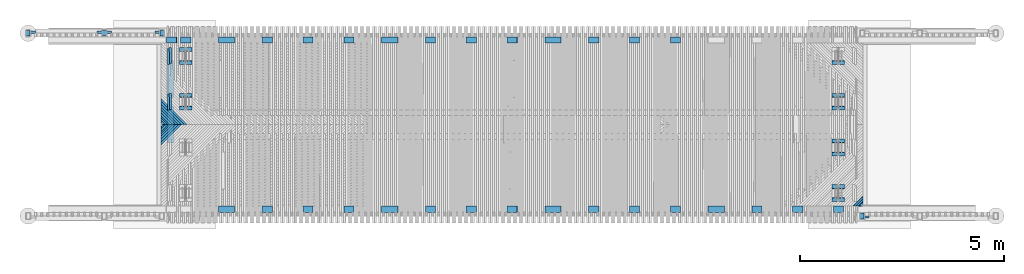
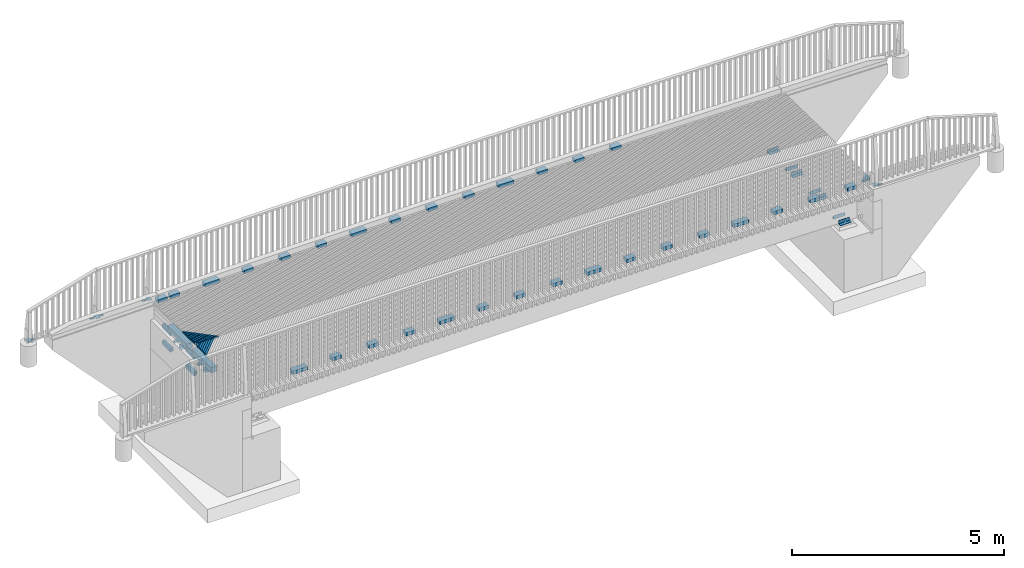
# One storey, part 44 of 47: 79 beams.
"""IFC2X3 building model written with IfcOpenShell, lengths in millimetres."""

from ifc_helpers import new_model, si_unit, frame, origin_with_axes, place, context, subcontext, project, spatial, faceted_brep, material, type_object, element, save


model = new_model("IFC2X3")

# Units and contexts
model_context = context("Model", 3, precision=1e-05, world=origin_with_axes())
body_context = subcontext(model_context, "Body", "Model", "MODEL_VIEW")
ifc_project = project(units=[si_unit("LENGTHUNIT", "METRE", prefix="MILLI"), si_unit("AREAUNIT", "SQUARE_METRE"), si_unit("VOLUMEUNIT", "CUBIC_METRE"), si_unit("MASSUNIT", "GRAM", prefix="KILO"), si_unit("TIMEUNIT", "SECOND"), si_unit("PLANEANGLEUNIT", "RADIAN"), si_unit("SOLIDANGLEUNIT", "STERADIAN"), si_unit("THERMODYNAMICTEMPERATUREUNIT", "DEGREE_CELSIUS"), si_unit("LUMINOUSINTENSITYUNIT", "LUMEN")], contexts=[model_context])

# Site, building, storey
site_placement = place(None, origin_with_axes())
site = spatial("IfcSite", under=ifc_project, at=site_placement, Name="Undefined", CompositionType="ELEMENT")
building_placement = place(site_placement, origin_with_axes())
building = spatial("IfcBuilding", under=site, at=building_placement, Name="Undefined", CompositionType="ELEMENT")
storey_placement = place(building_placement, origin_with_axes())
storey = spatial("IfcBuildingStorey", under=building, at=storey_placement, Name="Undefined", CompositionType="ELEMENT", Elevation=0.0)

# Beams
ifc_material_1 = material(Name="STEEL/AISI316")
beam_type_1 = type_object("IfcBeamType", Name="PL60*10", PredefinedType="NOTDEFINED")
for number, where, z_axis, x_axis in (
    (1, (16642.0268804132, 60099.9999997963, 3120.19233695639), (-0.000116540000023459, 0.999999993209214, 0.0), (0.999999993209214, 0.000116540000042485, 0.0)),
    (2, (-3802.03943117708, 64630.0000002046, 3074.05721748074), (-0.000116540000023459, -0.999999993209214, 0.0), (0.999999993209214, -0.000116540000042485, 0.0)),
    (3, (-642.026880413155, 64630.0000002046, 3120.19233695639), (0.000116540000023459, -0.999999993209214, 0.0), (-0.999999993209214, -0.000116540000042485, 0.0)),
    (4, (-2057.02733990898, 64630.0000002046, 3100.31976226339), (0.000116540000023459, -0.999999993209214, 0.0), (-0.999999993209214, -0.000116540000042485, 0.0)),
    (5, (-1937.03433205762, 64630.0000002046, 3100.31976226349), (-0.000116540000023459, -0.999999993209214, 0.0), (0.999999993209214, -0.000116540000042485, 0.0)),
):
    element("IfcBeam", number, at=place(storey_placement, frame(where, z_axis=z_axis, x_axis=x_axis)), inside=storey, type_object=beam_type_1, material=ifc_material_1, Name="KAIDEPYLVÄS", ObjectType="PL60*10", context=body_context, shape_type="Brep", body=[
        faceted_brep([(3.63797880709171e-12, 5.0, -30.0), (0.0, 5.0, 30.0), (115.000000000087, 5.0, 29.9999999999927), (115.000000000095, 5.0, -30.0), (0.0, -5.0, 30.0), (115.000000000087, -5.0, 29.9999999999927), (3.63797880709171e-12, -5.0, -30.0), (115.000000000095, -5.0, -30.0)], [[[0, 1, 2, 3]], [[1, 4, 5, 2]], [[4, 6, 7, 5]], [[6, 0, 3, 7]], [[5, 7, 3, 2]], [[6, 4, 1, 0]]]),
    ])
beam_type_2 = type_object("IfcBeamType", Name="PL100*10", PredefinedType="NOTDEFINED")
for number, where, z_axis, x_axis in (
    (6, (16582.0303763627, 60055.02, 3137.45233696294), (1.0, 0.0, 0.0), (0.0, 1.0, 0.0)),
    (7, (-3862.03593497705, 64674.9800000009, 3091.31721748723), (-1.0, 0.0, 0.0), (0.0, -1.0, 0.0)),
    (8, (-582.030376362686, 64674.9800000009, 3137.45233696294), (-1.0, 0.0, 0.0), (0.0, -1.0, 0.0)),
    (9, (-1997.03083585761, 64674.9800000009, 3117.57976226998), (-1.0, 0.0, 0.0), (0.0, -1.0, 0.0)),
):
    element("IfcBeam", number, at=place(storey_placement, frame(where, z_axis=z_axis, x_axis=x_axis)), inside=storey, type_object=beam_type_2, material=ifc_material_1, Name="KAIDEPYLVÄS", ObjectType="PL100*10", context=body_context, shape_type="Brep", body=[
        faceted_brep([(0.0, 5.0, -50.0), (0.0, 5.0, 50.0), (140.0, 5.0, 50.0), (140.0, 5.0, -50.0), (0.0, -5.0, 50.0), (140.0, -5.0, 50.0), (0.0, -5.0, -50.0), (140.0, -5.0, -50.0)], [[[0, 1, 2, 3]], [[1, 4, 5, 2]], [[4, 6, 7, 5]], [[6, 0, 3, 7]], [[5, 7, 3, 2]], [[6, 4, 1, 0]]]),
    ])
ifc_material_2 = material(Name="TIMBER/Timber_Undefined")
beam_type_3 = type_object("IfcBeamType", Name="150*100", PredefinedType="NOTDEFINED")
for number, where, z_axis, x_axis in (
    (10, (12805.9377995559, 60289.9999999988, 3199.40960826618), (0.0, -1.0, 0.0), (0.999944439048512, 0.0, -0.0105412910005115)),
    (11, (8804.3535367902, 60289.9999999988, 3218.05327472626), (0.0, -1.0, 0.0), (0.999992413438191, 0.0, -0.00389526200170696)),
    (12, (4802.73374412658, 60289.9999999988, 3210.1013407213), (0.0, -1.0, 0.0), (0.9999962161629, 0.0, 0.002750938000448)),
    (13, (801.255181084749, 60289.9999999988, 3175.55415743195), (0.0, -1.0, 0.0), (0.999955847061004, 0.0, 0.0093970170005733)),
    (14, (4802.73374412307, 64439.9999999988, 3210.10134072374), (0.0, -1.0, 0.0), (0.9999962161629, 0.0, 0.002750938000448)),
    (15, (801.255181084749, 64439.9999999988, 3175.55415743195), (0.0, -1.0, 0.0), (0.999955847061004, 0.0, 0.0093970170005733)),
    (16, (8804.3535367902, 64439.9999999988, 3218.05327472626), (0.0, -1.0, 0.0), (0.999992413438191, 0.0, -0.00389526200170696)),
):
    element("IfcBeam", number, at=place(storey_placement, frame(where, z_axis=z_axis, x_axis=x_axis)), inside=storey, type_object=beam_type_3, material=ifc_material_2, Name="TÖRMÄYSJOHDE", ObjectType="150*100", context=body_context, shape_type="Brep", body=[
        faceted_brep([(-3.63797880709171e-12, 50.0, -75.0), (-3.63797880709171e-12, 50.0, 75.0), (399.996161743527, 49.9999999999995, 75.0), (399.996161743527, 49.9999999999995, -75.0), (0.0, -49.9999999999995, 75.0), (399.996161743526, -50.0000000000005, 75.0), (0.0, -49.9999999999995, -75.0), (399.996161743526, -50.0000000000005, -75.0)], [[[0, 1, 2, 3]], [[1, 4, 5, 2]], [[4, 6, 7, 5]], [[6, 0, 3, 7]], [[5, 7, 3, 2]], [[6, 4, 1, 0]]]),
    ])
for number, where, z_axis, x_axis in (
    (17, (2876.78354707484, 64439.9999999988, 3196.15064859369), (0.0, -1.0, 0.0), (0.999952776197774, 0.0, 0.00971830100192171)),
    (18, (2876.78354707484, 60289.9999999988, 3196.15064859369), (0.0, -1.0, 0.0), (0.999952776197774, 0.0, 0.00971830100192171)),
    (19, (15881.7966501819, 60289.9999999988, 3166.35655532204), (0.0, -1.0, 0.0), (0.999929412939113, 0.0, -0.0118814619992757)),
    (20, (14881.4642555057, 60289.9999999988, 3178.62153167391), (0.0, -1.0, 0.0), (0.999947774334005, 0.0, -0.0102200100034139)),
    (21, (13881.1128627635, 60289.9999999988, 3189.22438612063), (0.0, -1.0, 0.0), (0.99996337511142, 0.0, -0.00855853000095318)),
    (22, (11880.3641300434, 64439.9999999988, 3205.44361680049), (0.0, -1.0, 0.0), (0.999986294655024, 0.0, -0.00523550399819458)),
    (23, (11880.3641300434, 60289.9999999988, 3205.44361680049), (0.0, -1.0, 0.0), (0.999986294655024, 0.0, -0.00523550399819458)),
    (24, (10879.9723136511, 64439.9999999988, 3211.05994825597), (0.0, -1.0, 0.0), (0.999993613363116, 0.0, -0.00357396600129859)),
    (25, (10879.9723136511, 60289.9999999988, 3211.05994825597), (0.0, -1.0, 0.0), (0.999993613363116, 0.0, -0.00357396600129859)),
    (26, (9879.57254634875, 64439.9999999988, 3215.01406825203), (0.0, -1.0, 0.0), (0.999998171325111, 0.0, -0.00191241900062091)),
    (27, (9879.57254634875, 60289.9999999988, 3215.01406825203), (0.0, -1.0, 0.0), (0.999998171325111, 0.0, -0.00191241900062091)),
    (28, (7878.76020647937, 64439.9999999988, 3217.93563478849), (0.0, -1.0, 0.0), (0.99999900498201, 0.0, 0.00141068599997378)),
    (29, (7878.76020647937, 60289.9999999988, 3217.93563478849), (0.0, -1.0, 0.0), (0.99999900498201, 0.0, 0.00141068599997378)),
    (30, (6878.35315767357, 64439.9999999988, 3216.90307326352), (0.0, -1.0, 0.0), (0.99999528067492, 0.0, 0.00307223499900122)),
    (31, (6878.35315767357, 60289.9999999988, 3216.90307326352), (0.0, -1.0, 0.0), (0.99999528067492, 0.0, 0.00307223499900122)),
    (32, (5877.94920546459, 64439.9999999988, 3214.20828414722), (0.0, -1.0, 0.0), (0.99998879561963, 0.0, 0.00473377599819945)),
    (33, (5877.94920546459, 60289.9999999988, 3214.20828414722), (0.0, -1.0, 0.0), (0.99998879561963, 0.0, 0.00473377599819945)),
    (34, (3877.16163831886, 64439.9999999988, 3203.83205748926), (0.0, -1.0, 0.0), (0.999967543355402, 0.0, 0.00805681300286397)),
    (35, (3877.16163831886, 60289.9999999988, 3203.83205748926), (0.0, -1.0, 0.0), (0.999967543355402, 0.0, 0.00805681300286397)),
    (36, (1876.41959979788, 64439.9999999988, 3186.80706939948), (0.0, -1.0, 0.0), (0.999935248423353, 0.0, 0.0113797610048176)),
    (37, (1876.41959979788, 60289.9999999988, 3186.80706939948), (0.0, -1.0, 0.0), (0.999935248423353, 0.0, 0.0113797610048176)),
    (38, (-124.254815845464, 64439.9999999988, 3163.13350788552), (0.0, -1.0, 0.0), (0.999891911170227, 0.0, 0.0147025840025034)),
    (39, (-469.724815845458, 64439.9999999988, 3158.3535078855), (0.0, -1.0, 0.0), (0.999891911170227, 0.0, 0.0147025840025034)),
):
    element("IfcBeam", number, at=place(storey_placement, frame(where, z_axis=z_axis, x_axis=x_axis)), inside=storey, type_object=beam_type_3, material=ifc_material_2, Name="TÖRMÄYSJOHDE", ObjectType="150*100", context=body_context, shape_type="Brep", body=[
        faceted_brep([(-3.63797880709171e-12, 50.0, -75.0), (-3.63797880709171e-12, 50.0, 75.0), (250.000589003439, 50.0000000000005, 75.0), (250.000589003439, 50.0000000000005, -75.0), (0.0, -49.9999999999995, 75.0), (250.000589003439, -50.0, 75.0), (0.0, -49.9999999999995, -75.0), (250.000589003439, -50.0, -75.0)], [[[0, 1, 2, 3]], [[1, 4, 5, 2]], [[4, 6, 7, 5]], [[6, 0, 3, 7]], [[5, 7, 3, 2]], [[6, 4, 1, 0]]]),
    ])
beam_type_4 = type_object("IfcBeamType", Name="150*150", PredefinedType="NOTDEFINED")
for number, where, z_axis, x_axis, name in (
    (40, (-375.006122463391, 63035.0011300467, 2658.99214114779), (4.45050000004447e-05, 0.0, 0.999999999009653), (0.0, 1.0, 0.0), "BEAM"),
    (41, (-375.006122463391, 61915.0011300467, 2658.99214114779), (4.45050000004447e-05, 0.0, 0.999999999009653), (0.0, 1.0, 0.0), "BEAM"),
):
    element("IfcBeam", number, at=place(storey_placement, frame(where, z_axis=z_axis, x_axis=x_axis)), inside=storey, type_object=beam_type_4, material=ifc_material_2, Name=name, ObjectType="150*150", context=body_context, shape_type="Brep", body=[
        faceted_brep([(3.63797880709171e-12, 75.0000000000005, -75.0), (3.63797880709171e-12, 75.0000000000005, 75.0), (900.0, 75.0, 75.0000000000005), (900.0, 74.9999999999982, -74.9999999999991), (0.0, -75.0000000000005, 75.0), (900.0, -75.0000000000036, 75.0000000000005), (0.0, -75.0000000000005, -75.0), (900.0, -75.0, -74.9999999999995)], [[[0, 1, 2, 3]], [[1, 4, 5, 2]], [[4, 6, 7, 5]], [[6, 0, 3, 7]], [[5, 7, 3, 2]], [[6, 4, 1, 0]]]),
    ])
beam_type_5 = type_object("IfcBeamType", Name="50*50", PredefinedType="NOTDEFINED")
beam_1_placement = place(storey_placement, frame((18531.7317784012, 62364.5001003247, 3144.0077743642), z_axis=(0.706781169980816, -0.706981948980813, -0.0252369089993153), x_axis=(-0.707258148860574, -0.706948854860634, -0.00303767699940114)))
element("IfcBeam", 42, at=beam_1_placement, inside=storey, type_object=beam_type_5, material=ifc_material_2, Name="BEAM", ObjectType="50*50", context=body_context, shape_type="Brep", body=[
    faceted_brep([(2802.92643296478, -25.0000000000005, 25.0000000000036), (2852.92877373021, -25.0000000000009, -24.9999999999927), (2854.34301907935, 24.9999999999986, -24.9999999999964), (2804.3406783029, 24.9999999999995, 25.0000000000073), (2705.75872714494, 24.9999999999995, -24.9999999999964), (2755.72500686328, 24.9999999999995, 25.0000000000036), (2756.83447595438, -25.0000000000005, 25.0), (2706.86819623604, -25.0000000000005, -25.0000000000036)], [[[0, 1, 2, 3]], [[3, 2, 4, 5]], [[0, 3, 5, 6]], [[1, 0, 6, 7]], [[2, 1, 7, 4]], [[6, 5, 4, 7]]]),
])
beam_2_placement = place(storey_placement, frame((-537.985484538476, 62364.5001003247, 3175.22917320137), z_axis=(0.707225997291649, -0.706981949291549, -0.00281285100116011), x_axis=(-0.706806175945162, -0.706948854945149, -0.0254626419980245)))
element("IfcBeam", 43, at=beam_2_placement, inside=storey, type_object=beam_type_5, material=ifc_material_2, Name="BEAM", ObjectType="50*50", context=body_context, shape_type="Brep", body=[
    faceted_brep([(23.4806436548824, -25.0000000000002, -25.0), (-26.4222658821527, -25.0000000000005, 25.0000000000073), (-25.0086637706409, 24.9999999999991, 25.0), (24.8942457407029, 24.9999999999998, -24.9999999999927), (62.1578303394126, -25.0000000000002, -24.9999999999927), (112.187528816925, -24.9999999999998, 25.0000000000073), (113.320306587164, 25.0, 25.0000000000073), (63.2906081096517, 24.9999999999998, -24.9999999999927)], [[[0, 1, 2, 3]], [[1, 0, 4, 5]], [[2, 1, 5, 6]], [[3, 2, 6, 7]], [[0, 3, 7, 4]], [[6, 5, 4, 7]]]),
])
beam_3_placement = place(storey_placement, frame((-537.985484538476, 62365.4998996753, 3175.22917320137), z_axis=(0.707225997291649, 0.706981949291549, -0.00281285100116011), x_axis=(-0.706806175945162, 0.706948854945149, -0.0254626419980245)))
element("IfcBeam", 44, at=beam_3_placement, inside=storey, type_object=beam_type_5, material=ifc_material_2, Name="BEAM", ObjectType="50*50", context=body_context, shape_type="Brep", body=[
    faceted_brep([(25.0011701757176, -25.0, -24.9999999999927), (-25.0011704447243, -25.0, 24.9999999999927), (-26.4154158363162, 25.0, 25.0), (23.5869248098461, 25.0, -25.0), (112.187528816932, 25.0000000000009, 25.0000000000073), (62.1578303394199, 25.0, -24.9999999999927), (63.2906081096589, -25.0, -24.9999999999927), (113.320306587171, -25.0, 25.0000000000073)], [[[0, 1, 2, 3]], [[3, 2, 4, 5]], [[0, 3, 5, 6]], [[1, 0, 6, 7]], [[2, 1, 7, 4]], [[6, 5, 4, 7]]]),
])
beam_4_placement = place(storey_placement, frame((-467.268344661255, 62364.5001003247, 3176.23083387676), z_axis=(0.70722566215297, -0.706981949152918, -0.00289592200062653), x_axis=(-0.706809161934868, -0.706948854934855, -0.0253796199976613)))
element("IfcBeam", 45, at=beam_4_placement, inside=storey, type_object=beam_type_5, material=ifc_material_2, Name="BEAM", ObjectType="50*50", context=body_context, shape_type="Brep", body=[
    faceted_brep([(23.4806436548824, -25.0000000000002, -25.0), (-26.4222658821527, -25.0000000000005, 25.0000000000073), (-25.0086637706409, 24.9999999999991, 25.0), (24.8942457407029, 24.9999999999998, -24.9999999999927), (162.21298243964, -25.0000000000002, -25.0), (212.242445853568, -25.0000000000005, 25.0), (213.366912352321, 25.0000000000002, 24.9999999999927), (163.337448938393, 25.0, -25.0)], [[[0, 1, 2, 3]], [[1, 0, 4, 5]], [[2, 1, 5, 6]], [[3, 2, 6, 7]], [[0, 3, 7, 4]], [[6, 5, 4, 7]]]),
])
beam_5_placement = place(storey_placement, frame((-467.268344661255, 62365.4998996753, 3176.23083387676), z_axis=(0.70722566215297, 0.706981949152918, -0.00289592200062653), x_axis=(-0.706809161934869, 0.706948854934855, -0.0253796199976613)))
element("IfcBeam", 46, at=beam_5_placement, inside=storey, type_object=beam_type_5, material=ifc_material_2, Name="BEAM", ObjectType="50*50", context=body_context, shape_type="Brep", body=[
    faceted_brep([(25.0011701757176, -25.0, -24.9999999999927), (-25.0011704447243, -25.0, 24.9999999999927), (-26.4154158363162, 25.0, 25.0), (23.5869248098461, 25.0, -25.0), (212.242445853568, 24.9999999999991, 25.0), (162.21298243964, 25.0, -25.0), (163.3374489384, -25.0000000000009, -25.0000000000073), (213.366912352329, -25.0000000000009, 25.0)], [[[0, 1, 2, 3]], [[3, 2, 4, 5]], [[0, 3, 5, 6]], [[1, 0, 6, 7]], [[2, 1, 7, 4]], [[6, 5, 4, 7]]]),
])
beam_6_placement = place(storey_placement, frame((-421.551087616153, 62364.5001003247, 3177.22418806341), z_axis=(0.707225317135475, -0.706981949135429, -0.00297899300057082), x_axis=(-0.706812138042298, -0.706948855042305, -0.0252965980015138)))
element("IfcBeam", 47, at=beam_6_placement, inside=storey, type_object=beam_type_5, material=ifc_material_2, Name="BEAM", ObjectType="50*50", context=body_context, shape_type="Brep", body=[
    faceted_brep([(23.4806436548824, -25.0000000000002, -25.0), (-26.4222658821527, -25.0000000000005, 25.0000000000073), (-25.0086637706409, 24.9999999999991, 25.0), (24.8942457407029, 24.9999999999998, -24.9999999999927), (226.897381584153, -25.0, -25.0), (276.926609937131, -25.0, 25.0000000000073), (278.042765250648, 25.0, 25.0000000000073), (228.01353689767, 25.0000000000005, -25.0)], [[[0, 1, 2, 3]], [[1, 0, 4, 5]], [[2, 1, 5, 6]], [[3, 2, 6, 7]], [[0, 3, 7, 4]], [[6, 5, 4, 7]]]),
])
beam_7_placement = place(storey_placement, frame((-421.551087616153, 62365.4998996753, 3177.22418806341), z_axis=(0.707225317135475, 0.706981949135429, -0.00297899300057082), x_axis=(-0.706812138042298, 0.706948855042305, -0.0252965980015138)))
element("IfcBeam", 48, at=beam_7_placement, inside=storey, type_object=beam_type_5, material=ifc_material_2, Name="BEAM", ObjectType="50*50", context=body_context, shape_type="Brep", body=[
    faceted_brep([(25.0011701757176, -25.0, -24.9999999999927), (-25.0011704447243, -25.0, 24.9999999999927), (-26.4154158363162, 25.0, 25.0), (23.5869248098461, 25.0, -25.0), (276.926609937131, 24.9999999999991, 25.0000000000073), (226.89738158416, 24.9999999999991, -25.0), (228.01353689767, -25.0000000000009, -25.0), (278.042765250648, -25.0000000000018, 25.0000000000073)], [[[0, 1, 2, 3]], [[3, 2, 4, 5]], [[0, 3, 5, 6]], [[1, 0, 6, 7]], [[2, 1, 7, 4]], [[6, 5, 4, 7]]]),
])
beam_8_placement = place(storey_placement, frame((-350.833714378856, 62364.5001003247, 3178.20923574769), z_axis=(0.707224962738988, -0.706981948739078, -0.00306206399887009), x_axis=(-0.706815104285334, -0.706948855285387, -0.0252135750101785)))
element("IfcBeam", 49, at=beam_8_placement, inside=storey, type_object=beam_type_5, material=ifc_material_2, Name="BEAM", ObjectType="50*50", context=body_context, shape_type="Brep", body=[
    faceted_brep([(23.4806436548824, -25.0000000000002, -25.0), (-26.4222658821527, -25.0000000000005, 25.0000000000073), (-25.0086637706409, 24.9999999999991, 25.0), (24.8942457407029, 24.9999999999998, -24.9999999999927), (326.951333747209, -25.0000000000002, -24.9999999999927), (376.980327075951, -25.0, 25.0), (378.088171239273, 25.0000000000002, 25.0000000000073), (328.059177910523, 24.9999999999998, -25.0)], [[[0, 1, 2, 3]], [[1, 0, 4, 5]], [[2, 1, 5, 6]], [[3, 2, 6, 7]], [[0, 3, 7, 4]], [[6, 5, 4, 7]]]),
])
beam_9_placement = place(storey_placement, frame((-350.833714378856, 62365.4998996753, 3178.20923574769), z_axis=(0.707224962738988, 0.706981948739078, -0.00306206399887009), x_axis=(-0.706815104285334, 0.706948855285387, -0.0252135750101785)))
element("IfcBeam", 50, at=beam_9_placement, inside=storey, type_object=beam_type_5, material=ifc_material_2, Name="BEAM", ObjectType="50*50", context=body_context, shape_type="Brep", body=[
    faceted_brep([(25.0011701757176, -25.0, -24.9999999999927), (-25.0011704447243, -25.0, 24.9999999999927), (-26.4154158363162, 25.0, 25.0), (23.5869248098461, 25.0, -25.0), (376.980327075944, 25.0, 24.9999999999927), (326.951333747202, 25.0, -25.0), (328.059177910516, -25.0, -25.0000000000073), (378.088171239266, -25.0, 25.0)], [[[0, 1, 2, 3]], [[3, 2, 4, 5]], [[0, 3, 5, 6]], [[1, 0, 6, 7]], [[2, 1, 7, 4]], [[6, 5, 4, 7]]]),
])
beam_10_placement = place(storey_placement, frame((-280.116225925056, 62364.5001003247, 3179.18597691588), z_axis=(0.707224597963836, -0.70698194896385, -0.00314513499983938), x_axis=(-0.706818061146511, -0.706948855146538, -0.0251305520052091)))
element("IfcBeam", 51, at=beam_10_placement, inside=storey, type_object=beam_type_5, material=ifc_material_2, Name="BEAM", ObjectType="50*50", context=body_context, shape_type="Brep", body=[
    faceted_brep([(23.4806436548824, -25.0000000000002, -25.0), (-26.4222658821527, -25.0000000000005, 25.0000000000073), (-25.0086637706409, 24.9999999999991, 25.0), (24.8942457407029, 24.9999999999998, -24.9999999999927), (427.004615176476, -25.0000000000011, -24.9999999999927), (477.033373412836, -25.0000000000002, 25.0000000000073), (478.132906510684, 24.9999999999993, 25.0000000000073), (428.104148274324, 24.9999999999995, -24.9999999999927)], [[[0, 1, 2, 3]], [[1, 0, 4, 5]], [[2, 1, 5, 6]], [[3, 2, 6, 7]], [[0, 3, 7, 4]], [[6, 5, 4, 7]]]),
])
beam_11_placement = place(storey_placement, frame((-280.116225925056, 62365.4998996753, 3179.18597691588), z_axis=(0.707224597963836, 0.70698194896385, -0.00314513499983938), x_axis=(-0.706818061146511, 0.706948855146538, -0.0251305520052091)))
element("IfcBeam", 52, at=beam_11_placement, inside=storey, type_object=beam_type_5, material=ifc_material_2, Name="BEAM", ObjectType="50*50", context=body_context, shape_type="Brep", body=[
    faceted_brep([(25.0011701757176, -25.0, -24.9999999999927), (-25.0011704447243, -25.0, 24.9999999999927), (-26.4154158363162, 25.0, 25.0), (23.5869248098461, 25.0, -25.0), (477.033373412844, 25.0000000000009, 25.0), (427.004615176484, 25.0000000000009, -24.9999999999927), (428.104148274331, -24.9999999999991, -25.0), (478.132906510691, -24.9999999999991, 25.0)], [[[0, 1, 2, 3]], [[3, 2, 4, 5]], [[0, 3, 5, 6]], [[1, 0, 6, 7]], [[2, 1, 7, 4]], [[6, 5, 4, 7]]]),
])
beam_12_placement = place(storey_placement, frame((-209.39862323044, 62364.5001003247, 3180.15441155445), z_axis=(0.707224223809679, -0.706981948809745, -0.00322820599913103), x_axis=(-0.706821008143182, -0.706948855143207, -0.025047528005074)))
element("IfcBeam", 53, at=beam_12_placement, inside=storey, type_object=beam_type_5, material=ifc_material_2, Name="BEAM", ObjectType="50*50", context=body_context, shape_type="Brep", body=[
    faceted_brep([(23.4806436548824, -25.0000000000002, -25.0), (-26.4222658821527, -25.0000000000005, 25.0000000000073), (-25.0086637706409, 24.9999999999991, 25.0), (24.8942457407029, 24.9999999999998, -24.9999999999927), (527.05722883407, -25.0000000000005, -24.9999999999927), (577.085752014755, -25.0, 25.0000000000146), (578.176974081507, 24.9999999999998, 25.0000000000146), (528.14845090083, 24.9999999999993, -24.9999999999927)], [[[0, 1, 2, 3]], [[1, 0, 4, 5]], [[2, 1, 5, 6]], [[3, 2, 6, 7]], [[0, 3, 7, 4]], [[6, 5, 4, 7]]]),
])
beam_13_placement = place(storey_placement, frame((-209.39862323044, 62365.4998996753, 3180.15441155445), z_axis=(0.707224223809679, 0.706981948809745, -0.00322820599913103), x_axis=(-0.706821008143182, 0.706948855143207, -0.025047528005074)))
element("IfcBeam", 54, at=beam_13_placement, inside=storey, type_object=beam_type_5, material=ifc_material_2, Name="BEAM", ObjectType="50*50", context=body_context, shape_type="Brep", body=[
    faceted_brep([(25.0011701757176, -25.0, -24.9999999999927), (-25.0011704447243, -25.0, 24.9999999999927), (-26.4154158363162, 25.0, 25.0), (23.5869248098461, 25.0, -25.0), (577.085752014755, 25.0, 24.9999999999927), (527.057228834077, 25.0000000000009, -25.0000000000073), (528.14845090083, -24.9999999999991, -25.0000000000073), (578.176974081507, -25.0, 25.0)], [[[0, 1, 2, 3]], [[3, 2, 4, 5]], [[0, 3, 5, 6]], [[1, 0, 6, 7]], [[2, 1, 7, 4]], [[6, 5, 4, 7]]]),
])
beam_14_placement = place(storey_placement, frame((-138.680907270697, 62364.5001003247, 3181.11453965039), z_axis=(0.707223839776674, -0.706981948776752, -0.00331127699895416), x_axis=(-0.706823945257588, -0.706948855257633, -0.0249645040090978)))
element("IfcBeam", 55, at=beam_14_placement, inside=storey, type_object=beam_type_5, material=ifc_material_2, Name="BEAM", ObjectType="50*50", context=body_context, shape_type="Brep", body=[
    faceted_brep([(23.4806436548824, -25.0000000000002, -25.0), (-26.4222658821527, -25.0000000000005, 25.0000000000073), (-25.0086637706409, 24.9999999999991, 25.0), (24.8942457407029, 24.9999999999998, -24.9999999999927), (627.10917754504, -25.0000000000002, -24.9999999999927), (677.13746567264, -25.0000000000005, 25.0000000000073), (678.220376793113, 25.0, 25.0000000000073), (628.192088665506, 25.0000000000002, -25.0)], [[[0, 1, 2, 3]], [[1, 0, 4, 5]], [[2, 1, 5, 6]], [[3, 2, 6, 7]], [[0, 3, 7, 4]], [[6, 5, 4, 7]]]),
])
beam_15_placement = place(storey_placement, frame((-138.680907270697, 62365.4998996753, 3181.11453965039), z_axis=(0.707223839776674, 0.706981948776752, -0.00331127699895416), x_axis=(-0.706823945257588, 0.706948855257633, -0.0249645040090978)))
element("IfcBeam", 56, at=beam_15_placement, inside=storey, type_object=beam_type_5, material=ifc_material_2, Name="BEAM", ObjectType="50*50", context=body_context, shape_type="Brep", body=[
    faceted_brep([(25.0011701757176, -25.0, -24.9999999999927), (-25.0011704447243, -25.0, 24.9999999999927), (-26.4154158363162, 25.0, 25.0), (23.5869248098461, 25.0, -25.0), (677.137465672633, 24.9999999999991, 24.9999999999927), (627.109177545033, 24.9999999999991, -25.0), (628.192088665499, -25.0000000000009, -25.0000000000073), (678.220376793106, -25.0000000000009, 25.0)], [[[0, 1, 2, 3]], [[3, 2, 4, 5]], [[0, 3, 5, 6]], [[1, 0, 6, 7]], [[2, 1, 7, 4]], [[6, 5, 4, 7]]]),
])
beam_16_placement = place(storey_placement, frame((-67.9630790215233, 62365.4998996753, 3182.06636119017), z_axis=(0.707223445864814, 0.706981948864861, -0.00339434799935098), x_axis=(-0.706826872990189, 0.706948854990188, -0.0248814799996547)))
element("IfcBeam", 57, at=beam_16_placement, inside=storey, type_object=beam_type_5, material=ifc_material_2, Name="BEAM", ObjectType="50*50", context=body_context, shape_type="Brep", body=[
    faceted_brep([(25.0011701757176, -25.0, -24.9999999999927), (-25.0011704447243, -25.0, 24.9999999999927), (-26.4154158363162, 25.0, 25.0), (23.5869248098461, 25.0, -25.0), (777.188516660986, 25.0, 25.0000000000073), (727.160463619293, 25.0000000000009, -25.0), (728.235063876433, -25.0, -25.0), (778.263116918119, -24.9999999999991, 25.0000000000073)], [[[0, 1, 2, 3]], [[3, 2, 4, 5]], [[0, 3, 5, 6]], [[1, 0, 6, 7]], [[2, 1, 7, 4]], [[6, 5, 4, 7]]]),
])
beam_17_placement = place(storey_placement, frame((2.75486054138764, 62365.4998996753, 3183.00987616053), z_axis=(0.70722304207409, 0.706981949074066, -0.00347741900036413), x_axis=(-0.706829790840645, 0.706948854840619, -0.0247984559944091)))
element("IfcBeam", 58, at=beam_17_placement, inside=storey, type_object=beam_type_5, material=ifc_material_2, Name="BEAM", ObjectType="50*50", context=body_context, shape_type="Brep", body=[
    faceted_brep([(25.0011701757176, -25.0, -24.9999999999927), (-25.0011704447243, -25.0, 24.9999999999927), (-26.4154158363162, 25.0, 25.0), (23.5869248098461, 25.0, -25.0), (877.238908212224, 24.9999999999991, 25.0000000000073), (827.211090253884, 25.0, -25.0), (828.277379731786, -25.0, -25.0), (878.305197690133, -25.0, 25.0000000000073)], [[[0, 1, 2, 3]], [[3, 2, 4, 5]], [[0, 3, 5, 6]], [[1, 0, 6, 7]], [[2, 1, 7, 4]], [[6, 5, 4, 7]]]),
])
beam_18_placement = place(storey_placement, frame((18461.0182922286, 62364.5001003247, 3145.24068549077), z_axis=(0.706784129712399, -0.70698194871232, -0.0251538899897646), x_axis=(-0.70725778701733, -0.706948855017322, -0.00312075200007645)))
element("IfcBeam", 59, at=beam_18_placement, inside=storey, type_object=beam_type_5, material=ifc_material_2, Name="BEAM", ObjectType="50*50", context=body_context, shape_type="Brep", body=[
    faceted_brep([(2802.92643296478, -25.0000000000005, 25.0000000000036), (2852.92877373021, -25.0000000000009, -24.9999999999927), (2854.34301907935, 24.9999999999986, -24.9999999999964), (2804.3406783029, 24.9999999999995, 25.0000000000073), (2605.78153801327, 25.0, -25.0000000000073), (2655.74805253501, 24.9999999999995, 24.9999999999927), (2656.84922092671, -25.0, 24.9999999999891), (2606.88270640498, -25.0, -25.0000000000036)], [[[0, 1, 2, 3]], [[3, 2, 4, 5]], [[0, 3, 5, 6]], [[1, 0, 6, 7]], [[2, 1, 7, 4]], [[6, 5, 4, 7]]]),
])
beam_19_placement = place(storey_placement, frame((18390.3046617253, 62364.5001003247, 3146.4652905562), z_axis=(0.70678707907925, -0.706981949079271, -0.0250708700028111), x_axis=(-0.707257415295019, -0.706948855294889, -0.00320382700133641)))
element("IfcBeam", 60, at=beam_19_placement, inside=storey, type_object=beam_type_5, material=ifc_material_2, Name="BEAM", ObjectType="50*50", context=body_context, shape_type="Brep", body=[
    faceted_brep([(2802.92643296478, -25.0000000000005, 25.0000000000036), (2852.92877373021, -25.0000000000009, -24.9999999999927), (2854.34301907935, 24.9999999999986, -24.9999999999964), (2804.3406783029, 24.9999999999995, 25.0000000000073), (2505.80407790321, 25.0000000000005, -24.9999999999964), (2555.77082719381, 25.0000000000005, 25.0000000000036), (2556.86369484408, -25.0000000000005, 25.0000000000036), (2506.89694555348, -25.0, -25.0)], [[[0, 1, 2, 3]], [[3, 2, 4, 5]], [[0, 3, 5, 6]], [[1, 0, 6, 7]], [[2, 1, 7, 4]], [[6, 5, 4, 7]]]),
])
ifc_material_3 = material(Name="STEEL/S235JR")
beam_type_6 = type_object("IfcBeamType", Name="L100*10", PredefinedType="NOTDEFINED")
for number, where, z_axis, x_axis, name in (
    (61, (16150.0, 62767.5000000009, 2047.33), (0.0, -1.0, 0.0), (-1.0, 0.0, 0.0), "BEAM"),
    (62, (16150.0, 63082.5000000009, 2047.33), (0.0, 0.0, 1.0), (-1.0, 0.0, 0.0), "BEAM"),
    (63, (16150.0, 63887.5000000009, 2025.33), (0.0, -1.0, 0.0), (-1.0, 0.0, 0.0), "BEAM"),
    (64, (15850.0, 61962.5, 2047.33), (0.0, 1.0, 0.0), (1.0, 0.0, 0.0), "BEAM"),
    (65, (15850.0, 61647.5, 2047.33), (0.0, 0.0, 1.0), (1.0, 0.0, 0.0), "BEAM"),
    (66, (15850.0, 60842.5, 2025.33), (0.0, 1.0, 0.0), (1.0, 0.0, 0.0), "BEAM"),
    (67, (15850.0, 60527.5, 2025.33), (0.0, 0.0, 1.0), (1.0, 0.0, 0.0), "BEAM"),
    (68, (150.0, 62767.5000000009, 2047.33), (0.0, -1.0, 0.0), (-1.0, 0.0, 0.0), "BEAM"),
    (69, (150.0, 63082.5000000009, 2047.33), (0.0, 0.0, 1.0), (-1.0, 0.0, 0.0), "BEAM"),
    (70, (150.0, 63887.5000000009, 2025.33), (0.0, -1.0, 0.0), (-1.0, 0.0, 0.0), "BEAM"),
    (71, (150.0, 64202.5000000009, 2025.33), (0.0, 0.0, 1.0), (-1.0, 0.0, 0.0), "BEAM"),
):
    element("IfcBeam", number, at=place(storey_placement, frame(where, z_axis=z_axis, x_axis=x_axis)), inside=storey, type_object=beam_type_6, material=ifc_material_3, Name=name, ObjectType="L100*10", context=body_context, shape_type="Brep", body=[
        faceted_brep([(0.0, 50.0, -50.0), (0.0, 50.0, 50.0), (300.0, 50.0, 50.0), (300.0, 50.0, -50.0), (0.0, 40.0, 50.0), (300.0, 40.0, 50.0), (0.0, 40.0, -40.0), (300.0, 40.0, -40.0), (0.0, -50.0, -40.0), (300.0, -50.0, -40.0), (0.0, -50.0, -50.0), (300.0, -50.0, -50.0)], [[[0, 1, 2, 3]], [[1, 4, 5, 2]], [[4, 6, 7, 5]], [[6, 8, 9, 7]], [[8, 10, 11, 9]], [[10, 0, 3, 11]], [[5, 7, 9, 11, 3, 2]], [[10, 8, 6, 4, 1, 0]]]),
    ])
beam_type_7 = type_object("IfcBeamType", Name="100*60", PredefinedType="NOTDEFINED")
beam_20_placement = place(storey_placement, frame((-380.01, 63857.5, 2533.62000000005), z_axis=(0.0, 0.0, 1.0), x_axis=(0.0, 1.0, 0.0)))
element("IfcBeam", 72, at=beam_20_placement, inside=storey, type_object=beam_type_7, material=ifc_material_2, Name="BEAM", ObjectType="100*60", context=body_context, shape_type="Brep", body=[
    faceted_brep([(0.0, -30.0, 50.0), (0.0, -30.0, -50.0), (395.0, -30.0, -50.0), (395.0, -30.0, 50.0), (0.0, 15.2499998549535, 50.0), (0.0, 15.2499998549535, -50.0), (395.0, 25.2500000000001, -50.0), (395.0, 25.2500000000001, 50.0)], [[[0, 1, 2, 3]], [[1, 0, 4, 5]], [[2, 1, 5, 6]], [[3, 2, 6, 7]], [[0, 3, 7, 4]], [[6, 5, 4, 7]]]),
])
beam_21_placement = place(storey_placement, frame((-420.01, 63837.5, 2533.62000000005), z_axis=(0.0, 0.0, 1.0), x_axis=(0.0, 1.0, 0.0)))
element("IfcBeam", 73, at=beam_21_placement, inside=storey, type_object=beam_type_7, material=ifc_material_2, Name="BEAM", ObjectType="100*60", context=body_context, shape_type="Brep", body=[
    faceted_brep([(0.0, 30.0, -50.0), (0.0, 30.0, 50.0), (395.0, 30.0, 50.0), (395.0, 30.0, -50.0), (0.0, -25.2563292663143, 50.0), (395.0, -15.256329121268, 50.0), (395.0, -15.256329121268, -50.0), (0.0, -25.2563292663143, -50.0)], [[[0, 1, 2, 3]], [[2, 1, 4, 5]], [[3, 2, 5, 6]], [[0, 3, 6, 7]], [[1, 0, 7, 4]], [[6, 5, 4, 7]]]),
])
beam_22_placement = place(storey_placement, frame((-380.0, 63857.5, 2055.33), z_axis=(0.0, 0.0, 1.0), x_axis=(0.0, 1.0, 0.0)))
element("IfcBeam", 74, at=beam_22_placement, inside=storey, type_object=beam_type_7, material=ifc_material_2, Name="BEAM", ObjectType="100*60", context=body_context, shape_type="Brep", body=[
    faceted_brep([(0.0, -30.0, 50.0), (0.0, -30.0, -50.0), (395.0, -30.0, -50.0), (395.0, -30.0, 50.0), (0.0, 15.2499998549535, 50.0), (0.0, 15.2499998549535, -50.0), (395.0, 25.2500000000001, -50.0), (395.0, 25.2500000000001, 50.0)], [[[0, 1, 2, 3]], [[1, 0, 4, 5]], [[2, 1, 5, 6]], [[3, 2, 6, 7]], [[0, 3, 7, 4]], [[6, 5, 4, 7]]]),
])
beam_23_placement = place(storey_placement, frame((-420.0, 63837.5, 2055.33), z_axis=(0.0, 0.0, 1.0), x_axis=(0.0, 1.0, 0.0)))
element("IfcBeam", 75, at=beam_23_placement, inside=storey, type_object=beam_type_7, material=ifc_material_2, Name="BEAM", ObjectType="100*60", context=body_context, shape_type="Brep", body=[
    faceted_brep([(0.0, 30.0, -50.0), (0.0, 30.0, 50.0), (395.0, 30.0, 50.0), (395.0, 30.0, -50.0), (0.0, -25.2563292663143, 50.0), (395.0, -15.256329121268, 50.0), (395.0, -15.256329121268, -50.0), (0.0, -25.2563292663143, -50.0)], [[[0, 1, 2, 3]], [[2, 1, 4, 5]], [[3, 2, 5, 6]], [[0, 3, 6, 7]], [[1, 0, 7, 4]], [[6, 5, 4, 7]]]),
])
beam_24_placement = place(storey_placement, frame((-380.01, 62737.5, 2533.62000000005), z_axis=(0.0, 0.0, 1.0), x_axis=(0.0, 1.0, 0.0)))
element("IfcBeam", 76, at=beam_24_placement, inside=storey, type_object=beam_type_7, material=ifc_material_2, Name="BEAM", ObjectType="100*60", context=body_context, shape_type="Brep", body=[
    faceted_brep([(0.0, -30.0, 50.0), (0.0, -30.0, -50.0), (395.0, -30.0, -50.0), (395.0, -30.0, 50.0), (0.0, 15.2499998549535, 50.0), (0.0, 15.2499998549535, -50.0), (395.0, 25.2500000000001, -50.0), (395.0, 25.2500000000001, 50.0)], [[[0, 1, 2, 3]], [[1, 0, 4, 5]], [[2, 1, 5, 6]], [[3, 2, 6, 7]], [[0, 3, 7, 4]], [[6, 5, 4, 7]]]),
])
beam_25_placement = place(storey_placement, frame((-420.01, 62717.5, 2533.62000000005), z_axis=(0.0, 0.0, 1.0), x_axis=(0.0, 1.0, 0.0)))
element("IfcBeam", 77, at=beam_25_placement, inside=storey, type_object=beam_type_7, material=ifc_material_2, Name="BEAM", ObjectType="100*60", context=body_context, shape_type="Brep", body=[
    faceted_brep([(0.0, 30.0, -50.0), (0.0, 30.0, 50.0), (395.0, 30.0, 50.0), (395.0, 30.0, -50.0), (0.0, -25.2563292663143, 50.0), (395.0, -15.256329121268, 50.0), (395.0, -15.256329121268, -50.0), (0.0, -25.2563292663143, -50.0)], [[[0, 1, 2, 3]], [[2, 1, 4, 5]], [[3, 2, 5, 6]], [[0, 3, 6, 7]], [[1, 0, 7, 4]], [[6, 5, 4, 7]]]),
])
beam_26_placement = place(storey_placement, frame((-380.0, 62737.5, 2055.33), z_axis=(0.0, 0.0, 1.0), x_axis=(0.0, 1.0, 0.0)))
element("IfcBeam", 78, at=beam_26_placement, inside=storey, type_object=beam_type_7, material=ifc_material_2, Name="BEAM", ObjectType="100*60", context=body_context, shape_type="Brep", body=[
    faceted_brep([(0.0, -30.0, 50.0), (0.0, -30.0, -50.0), (395.0, -30.0, -50.0), (395.0, -30.0, 50.0), (0.0, 15.2499998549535, 50.0), (0.0, 15.2499998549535, -50.0), (395.0, 25.2500000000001, -50.0), (395.0, 25.2500000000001, 50.0)], [[[0, 1, 2, 3]], [[1, 0, 4, 5]], [[2, 1, 5, 6]], [[3, 2, 6, 7]], [[0, 3, 7, 4]], [[6, 5, 4, 7]]]),
])
beam_27_placement = place(storey_placement, frame((-420.0, 62717.5, 2055.33), z_axis=(0.0, 0.0, 1.0), x_axis=(0.0, 1.0, 0.0)))
element("IfcBeam", 79, at=beam_27_placement, inside=storey, type_object=beam_type_7, material=ifc_material_2, Name="BEAM", ObjectType="100*60", context=body_context, shape_type="Brep", body=[
    faceted_brep([(0.0, 30.0, -50.0), (0.0, 30.0, 50.0), (395.0, 30.0, 50.0), (395.0, 30.0, -50.0), (0.0, -25.2563292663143, 50.0), (395.0, -15.256329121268, 50.0), (395.0, -15.256329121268, -50.0), (0.0, -25.2563292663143, -50.0)], [[[0, 1, 2, 3]], [[2, 1, 4, 5]], [[3, 2, 5, 6]], [[0, 3, 6, 7]], [[1, 0, 7, 4]], [[6, 5, 4, 7]]]),
])

save(model, "model.ifc")
